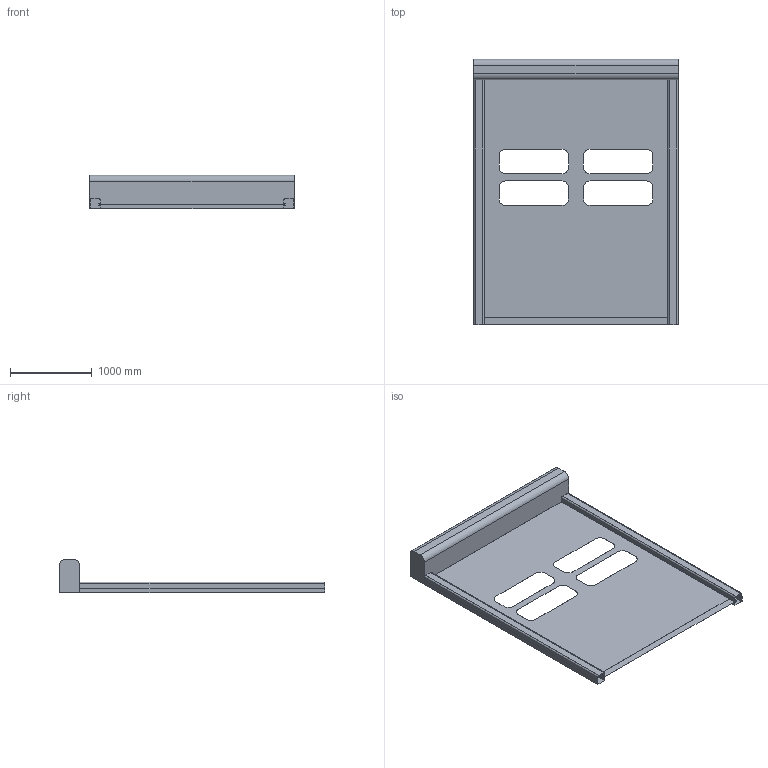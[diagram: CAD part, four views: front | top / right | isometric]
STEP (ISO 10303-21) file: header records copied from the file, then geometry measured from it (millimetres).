
FILE_DESCRIPTION (( 'STEP AP203' ), '1' );
FILE_NAME ('Dyn_CB basic.STEP', '2018-07-18T08:58:40', ( '' ), ( '' ), 'SwSTEP 2.0', 'SolidWorks 2018', '' );
FILE_SCHEMA (( 'CONFIG_CONTROL_DESIGN' ));
Length unit declared in the file: millimetre
Products named in the file (1): Dyn_CB basic
Bounding box: 2500 x 3250 x 410 mm (x, y, z)
Volume: 261252404.6 mm3; surface area: 21953022.2 mm2
Topology: 5 solids, 5 shells, 170 faces, 480 edges, 320 vertices
Faces by surface type: plane 112, cylinder 58
Entity records: 5593 total; most frequent: CARTESIAN_POINT 971, ORIENTED_EDGE 960, DIRECTION 938, EDGE_CURVE 480, LINE 364, VECTOR 364, VERTEX_POINT 320, AXIS2_PLACEMENT_3D 287
